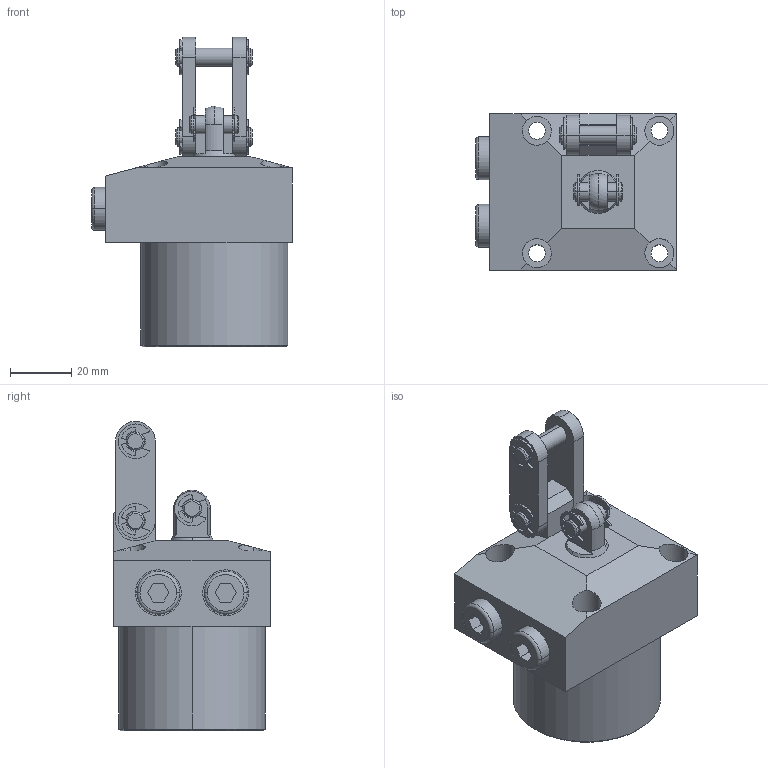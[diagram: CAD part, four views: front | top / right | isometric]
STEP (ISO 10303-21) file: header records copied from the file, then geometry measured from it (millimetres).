
FILE_DESCRIPTION (( 'STEP AP203' ), '1' );
FILE_NAME ('4171 321 L.STEP', '2017-11-17T06:55:42', ( '' ), ( '' ), 'SwSTEP 2.0', 'SolidWorks 2015', '' );
FILE_SCHEMA (( 'CONFIG_CONTROL_DESIGN' ));
Length unit declared in the file: millimetre
Products named in the file (7): PIN; LINK; (type e)_is_IS 3075(Part3) - 5; BODY_4171 321 l; 4171 321 L; PR; PIN 1
Assembly tree (13 placements, depth 2):
  4171 321 L
    BODY_4171 321 l
    PR
    PIN 1
    PIN  x2
    LINK  x2
    (type e)_is_IS 3075(Part3) - 5  x6
Bounding box: 65.5 x 51 x 101 mm (x, y, z)
Volume: 148274.9 mm3; surface area: 28615.8 mm2
Topology: 13 solids, 13 shells, 377 faces, 923 edges, 591 vertices
Faces by surface type: cylinder 192, plane 123, cone 56, torus 4, sphere 2
Entity records: 7160 total; most frequent: CARTESIAN_POINT 1209, DIRECTION 1143, ORIENTED_EDGE 986, EDGE_CURVE 493, AXIS2_PLACEMENT_3D 449, VERTEX_POINT 311, EDGE_LOOP 248, VECTOR 245
